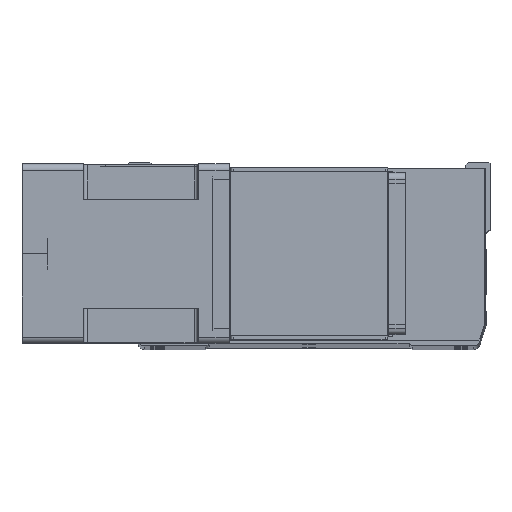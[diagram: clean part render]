
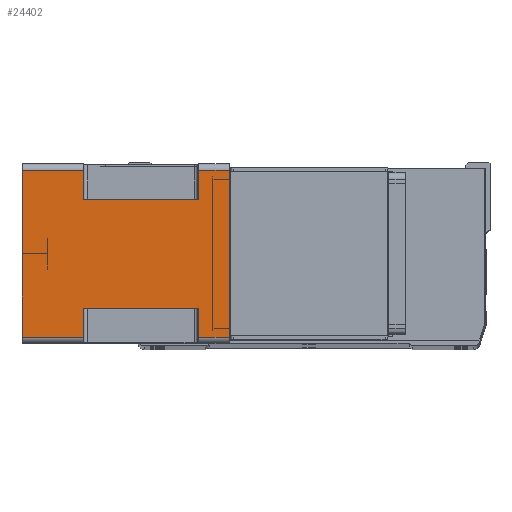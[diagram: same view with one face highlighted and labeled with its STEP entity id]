
A CAD part, top view. The second image highlights one B-rep face of the part: STEP entity #24402.
In plain terms, the highlighted planar face has unit normal (0, 0, 1) as drawn and (-1, 0, 0) by its records, which use the part's own axes.
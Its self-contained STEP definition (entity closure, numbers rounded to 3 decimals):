
#334 = EDGE_CURVE ( 'NONE', #10619, #42985, #33303, .T. ) ;
#369 = CARTESIAN_POINT ( 'NONE',  ( -71., 66., -164. ) ) ;
#653 = CARTESIAN_POINT ( 'NONE',  ( -71., -66., -164. ) ) ;
#970 = VERTEX_POINT ( 'NONE', #25655 ) ;
#1074 = VECTOR ( 'NONE', #41388, 1000. ) ;
#2810 = DIRECTION ( 'NONE',  ( 0., -1., 0. ) ) ;
#2877 = CARTESIAN_POINT ( 'NONE',  ( -71., -43., -164. ) ) ;
#3088 = ORIENTED_EDGE ( 'NONE', *, *, #9085, .T. ) ;
#3401 = DIRECTION ( 'NONE',  ( 0., 0., 1. ) ) ;
#3881 = CARTESIAN_POINT ( 'NONE',  ( -71., -66., -164. ) ) ;
#4629 = VERTEX_POINT ( 'NONE', #20575 ) ;
#4671 = EDGE_CURVE ( 'NONE', #15466, #16280, #4911, .T. ) ;
#4911 = LINE ( 'NONE', #27139, #29381 ) ;
#4976 = ORIENTED_EDGE ( 'NONE', *, *, #4671, .T. ) ;
#5009 = LINE ( 'NONE', #44968, #10534 ) ;
#5010 = VERTEX_POINT ( 'NONE', #21808 ) ;
#5015 = VECTOR ( 'NONE', #40093, 1000. ) ;
#5499 = EDGE_CURVE ( 'NONE', #12715, #16280, #21724, .T. ) ;
#7608 = LINE ( 'NONE', #31264, #1074 ) ;
#7793 = CARTESIAN_POINT ( 'NONE',  ( -71., -43., -115.5 ) ) ;
#8130 = VECTOR ( 'NONE', #24649, 1000. ) ;
#8151 = VERTEX_POINT ( 'NONE', #3881 ) ;
#8361 = CARTESIAN_POINT ( 'NONE',  ( -71., -66., -24.5 ) ) ;
#9085 = EDGE_CURVE ( 'NONE', #12715, #33396, #33509, .T. ) ;
#9631 = CARTESIAN_POINT ( 'NONE',  ( -71., -66., -24.5 ) ) ;
#10158 = CARTESIAN_POINT ( 'NONE',  ( -71., -66., -115.5 ) ) ;
#10534 = VECTOR ( 'NONE', #3401, 1000. ) ;
#10619 = VERTEX_POINT ( 'NONE', #26773 ) ;
#10981 = PLANE ( 'NONE',  #30552 ) ;
#11140 = DIRECTION ( 'NONE',  ( -1., 0., 0. ) ) ;
#12498 = CARTESIAN_POINT ( 'NONE',  ( -71., 43., -164. ) ) ;
#12715 = VERTEX_POINT ( 'NONE', #23016 ) ;
#14764 = EDGE_CURVE ( 'NONE', #15466, #5010, #40346, .T. ) ;
#15136 = VECTOR ( 'NONE', #36803, 1000. ) ;
#15466 = VERTEX_POINT ( 'NONE', #35397 ) ;
#15845 = DIRECTION ( 'NONE',  ( 0., -1., 0. ) ) ;
#16280 = VERTEX_POINT ( 'NONE', #20868 ) ;
#16743 = VECTOR ( 'NONE', #15845, 1000. ) ;
#16781 = VERTEX_POINT ( 'NONE', #16860 ) ;
#16860 = CARTESIAN_POINT ( 'NONE',  ( -71., 66., -164. ) ) ;
#19096 = LINE ( 'NONE', #2877, #28926 ) ;
#19979 = EDGE_CURVE ( 'NONE', #970, #26909, #23492, .T. ) ;
#20041 = CARTESIAN_POINT ( 'NONE',  ( -71., 66., -115.5 ) ) ;
#20201 = VECTOR ( 'NONE', #35884, 1000. ) ;
#20565 = ORIENTED_EDGE ( 'NONE', *, *, #42223, .F. ) ;
#20575 = CARTESIAN_POINT ( 'NONE',  ( -71., -66., 0. ) ) ;
#20868 = CARTESIAN_POINT ( 'NONE',  ( -71., 43., -24.5 ) ) ;
#21724 = LINE ( 'NONE', #12498, #15136 ) ;
#21808 = CARTESIAN_POINT ( 'NONE',  ( -71., 66., 0. ) ) ;
#23016 = CARTESIAN_POINT ( 'NONE',  ( -71., 43., -115.5 ) ) ;
#23492 = LINE ( 'NONE', #8361, #5015 ) ;
#23532 = VECTOR ( 'NONE', #39615, 1000. ) ;
#24001 = LINE ( 'NONE', #36198, #20201 ) ;
#24402 = ADVANCED_FACE ( 'NONE', ( #40561 ), #10981, .T. ) ;
#24649 = DIRECTION ( 'NONE',  ( 0., 0., 1. ) ) ;
#24739 = ORIENTED_EDGE ( 'NONE', *, *, #26159, .F. ) ;
#25655 = CARTESIAN_POINT ( 'NONE',  ( -71., -43., -24.5 ) ) ;
#25878 = VECTOR ( 'NONE', #37496, 1000. ) ;
#26159 = EDGE_CURVE ( 'NONE', #970, #42985, #19096, .T. ) ;
#26228 = ORIENTED_EDGE ( 'NONE', *, *, #5499, .F. ) ;
#26773 = CARTESIAN_POINT ( 'NONE',  ( -71., -66., -115.5 ) ) ;
#26909 = VERTEX_POINT ( 'NONE', #9631 ) ;
#27034 = EDGE_CURVE ( 'NONE', #26909, #4629, #5009, .T. ) ;
#27139 = CARTESIAN_POINT ( 'NONE',  ( -71., 43., -24.5 ) ) ;
#28926 = VECTOR ( 'NONE', #34617, 1000. ) ;
#29381 = VECTOR ( 'NONE', #2810, 1000. ) ;
#29457 = ORIENTED_EDGE ( 'NONE', *, *, #19979, .T. ) ;
#29530 = VECTOR ( 'NONE', #35017, 1000. ) ;
#30552 = AXIS2_PLACEMENT_3D ( 'NONE', #653, #11140, #31637 ) ;
#30663 = ORIENTED_EDGE ( 'NONE', *, *, #334, .T. ) ;
#31264 = CARTESIAN_POINT ( 'NONE',  ( -71., -66., 0. ) ) ;
#31527 = EDGE_CURVE ( 'NONE', #8151, #10619, #24001, .T. ) ;
#31637 = DIRECTION ( 'NONE',  ( 0., -1., 0. ) ) ;
#32519 = EDGE_CURVE ( 'NONE', #16781, #33396, #38035, .T. ) ;
#32727 = CARTESIAN_POINT ( 'NONE',  ( -71., -66., -164. ) ) ;
#32951 = ORIENTED_EDGE ( 'NONE', *, *, #14764, .F. ) ;
#33182 = EDGE_CURVE ( 'NONE', #16781, #8151, #42261, .T. ) ;
#33303 = LINE ( 'NONE', #7793, #29530 ) ;
#33396 = VERTEX_POINT ( 'NONE', #20041 ) ;
#33509 = LINE ( 'NONE', #10158, #25878 ) ;
#33889 = EDGE_LOOP ( 'NONE', ( #35063, #30663, #24739, #29457, #41419, #20565, #32951, #4976, #26228, #3088, #39291, #37112 ) ) ;
#34617 = DIRECTION ( 'NONE',  ( 0., 0., -1. ) ) ;
#35017 = DIRECTION ( 'NONE',  ( 0., 1., 0. ) ) ;
#35063 = ORIENTED_EDGE ( 'NONE', *, *, #31527, .T. ) ;
#35297 = CARTESIAN_POINT ( 'NONE',  ( -71., -43., -115.5 ) ) ;
#35397 = CARTESIAN_POINT ( 'NONE',  ( -71., 66., -24.5 ) ) ;
#35884 = DIRECTION ( 'NONE',  ( 0., 0., 1. ) ) ;
#36198 = CARTESIAN_POINT ( 'NONE',  ( -71., -66., -164. ) ) ;
#36803 = DIRECTION ( 'NONE',  ( 0., 0., 1. ) ) ;
#37112 = ORIENTED_EDGE ( 'NONE', *, *, #33182, .T. ) ;
#37496 = DIRECTION ( 'NONE',  ( 0., 1., 0. ) ) ;
#38035 = LINE ( 'NONE', #369, #8130 ) ;
#39291 = ORIENTED_EDGE ( 'NONE', *, *, #32519, .F. ) ;
#39615 = DIRECTION ( 'NONE',  ( 0., 0., 1. ) ) ;
#39766 = CARTESIAN_POINT ( 'NONE',  ( -71., 66., -164. ) ) ;
#40093 = DIRECTION ( 'NONE',  ( 0., -1., 0. ) ) ;
#40346 = LINE ( 'NONE', #39766, #23532 ) ;
#40561 = FACE_OUTER_BOUND ( 'NONE', #33889, .T. ) ;
#41388 = DIRECTION ( 'NONE',  ( 0., -1., 0. ) ) ;
#41419 = ORIENTED_EDGE ( 'NONE', *, *, #27034, .T. ) ;
#42223 = EDGE_CURVE ( 'NONE', #5010, #4629, #7608, .T. ) ;
#42261 = LINE ( 'NONE', #32727, #16743 ) ;
#42985 = VERTEX_POINT ( 'NONE', #35297 ) ;
#44968 = CARTESIAN_POINT ( 'NONE',  ( -71., -66., -164. ) ) ;
